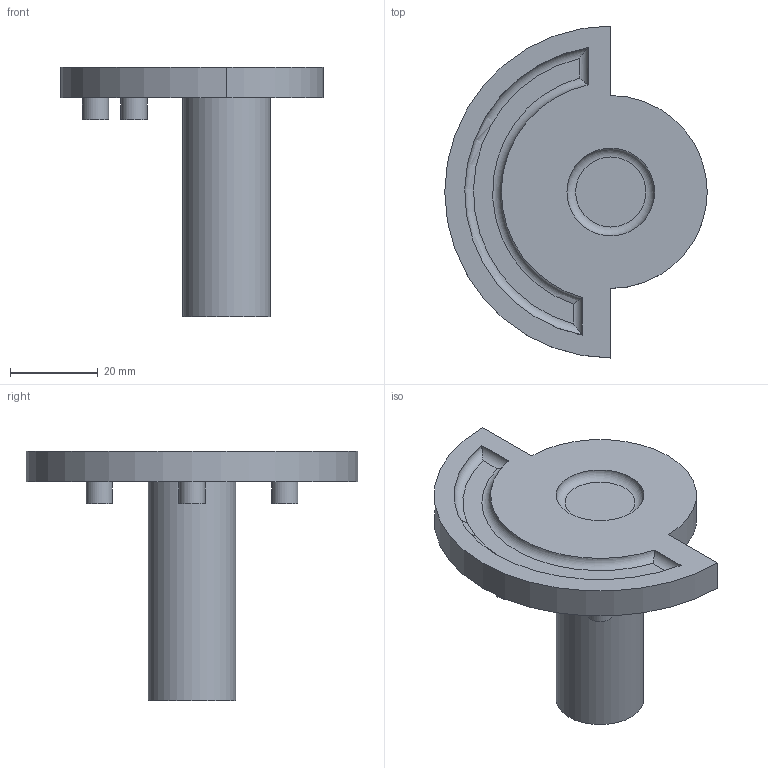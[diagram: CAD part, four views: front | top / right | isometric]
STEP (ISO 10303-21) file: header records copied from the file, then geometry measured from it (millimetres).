
FILE_DESCRIPTION(/* description */ (''),/* implementation_level */ '2;1');
FILE_NAME(/* name */ '',/* time_stamp */ '2025-07-04T12:36:32+03:00',/* author */ ('Inspektor_Kot'),/* organization */ (''),/* preprocessor_version */ 'ST-DEVELOPER v20',/* originating_system */ 'Autodesk Inventor 2025',/* authorisation */ '');
FILE_SCHEMA (('AUTOMOTIVE_DESIGN { 1 0 10303 214 3 1 1 }'));
Length unit declared in the file: millimetre
Products named in the file (1): Заглушка
Bounding box: 59.86 x 75.71 x 57 mm (x, y, z)
Volume: 35450.6 mm3; surface area: 11254.3 mm2
Topology: 1 solids, 1 shells, 21 faces, 39 edges, 26 vertices
Faces by surface type: plane 10, cylinder 8, torus 3
Full cylindrical faces by diameter (mm): 6 x3, 20 x1
Entity records: 619 total; most frequent: CARTESIAN_POINT 139, DIRECTION 98, ORIENTED_EDGE 78, AXIS2_PLACEMENT_3D 41, EDGE_CURVE 39, EDGE_LOOP 27, VERTEX_POINT 26, FACE_OUTER_BOUND 21
